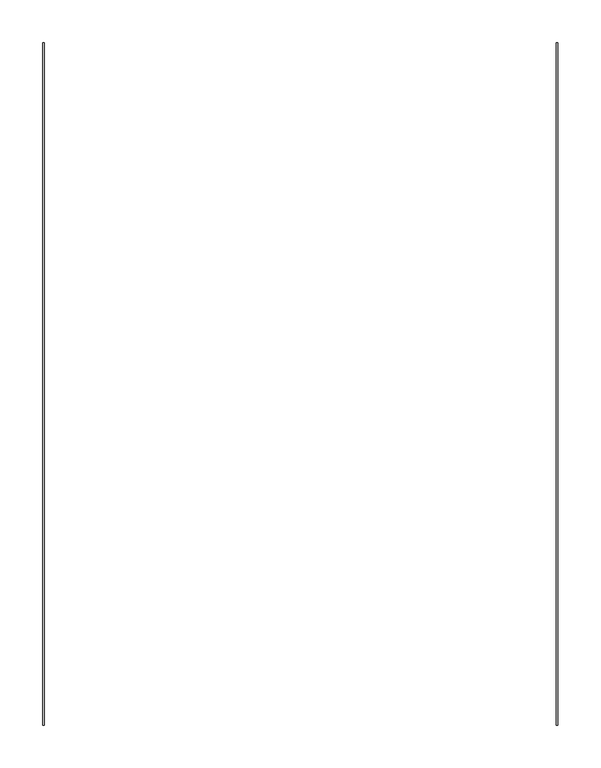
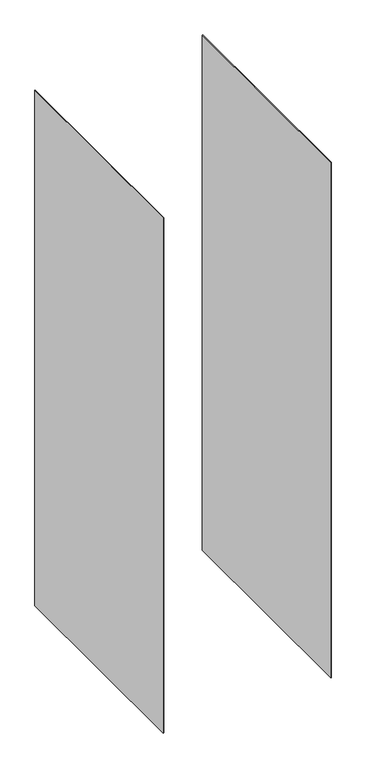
"""IFC4 building model written with IfcOpenShell, lengths in millimetres: electric distribution board geometry, DKC_Боковые панели : DKC_Боковые панели."""

from ifc_helpers import new_model, si_unit, frame, origin, place, context, project, spatial, polyline, outline, extrude, source, transform, mapped, element, save


def electric_distribution_board_a0cf2282(model_context):
    return source(origin(), model_context, "Body", "SweptSolid", [
        extrude(outline(polyline([(-302.0, 0.0), (-300.0, 0.0), (-300.0, -800.0), (-302.0, -800.0), (-302.0, 0.0)])), frame((0.0, 0.0, 20.0), z_axis=(0.0, 0.0, 1.0), x_axis=(1.0, 0.0, 0.0)), (0.0, 0.0, 1.0), 1960.0),
        extrude(outline(polyline([(300.0, 0.0), (302.0, 0.0), (302.0, -800.0), (300.0, -800.0), (300.0, 0.0)])), frame((0.0, 0.0, 20.0), z_axis=(0.0, 0.0, 1.0), x_axis=(1.0, 0.0, 0.0)), (0.0, 0.0, 1.0), 1960.0),
    ])


if __name__ == "__main__":
    model = new_model("IFC4")
    model_context = context("Model", 3, world=origin())
    ifc_project = project(units=[si_unit("LENGTHUNIT", "METRE", prefix="MILLI")], contexts=[model_context])
    site = spatial("IfcSite", under=ifc_project)
    building = spatial("IfcBuilding", under=site)
    placement = place(None, origin())
    electric_distribution_board_shape = electric_distribution_board_a0cf2282(model_context)
    element("IfcElectricDistributionBoard", 1, ObjectType="DKC_Боковые панели : DKC_Боковые панели", at=placement, inside=building, context=model_context, shape_type="MappedRepresentation", body=[
        mapped(electric_distribution_board_shape, transform((0.0, 0.0, 0.0), x_axis=(1.0, 0.0, 0.0), y_axis=(0.0, 1.0, 0.0), z_axis=(0.0, 0.0, 1.0))),
    ])
    save(model, "model.ifc")
